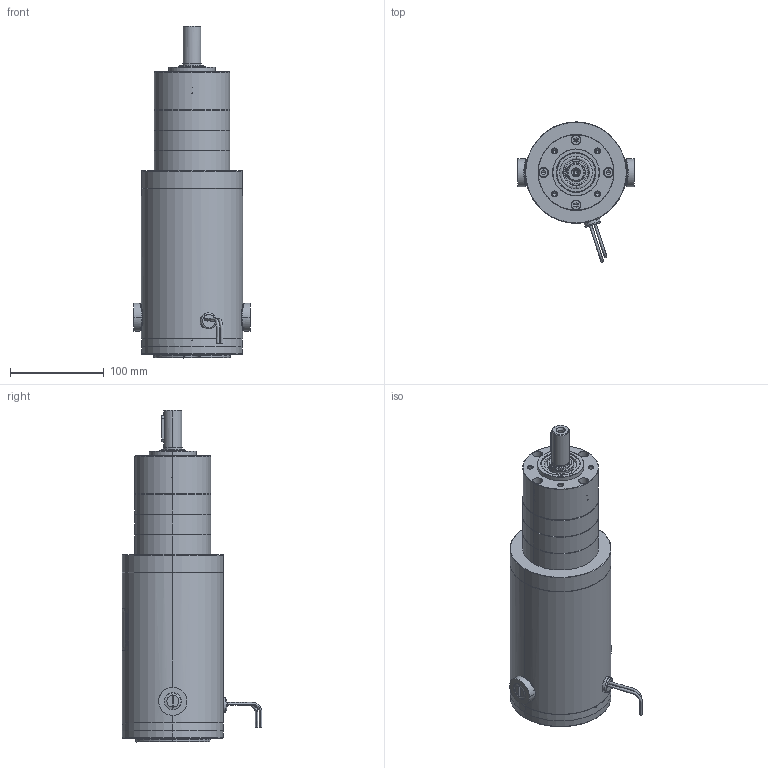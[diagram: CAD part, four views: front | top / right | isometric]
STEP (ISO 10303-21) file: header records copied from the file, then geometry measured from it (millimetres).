
FILE_DESCRIPTION (( 'STEP AP214' ), '1' );
FILE_NAME ('PM10816-PL8100i_3S.STEP', '2013-05-02T12:17:52', ( '' ), ( '' ), 'SwSTEP 2.0', 'SolidWorks 2013', '' );
FILE_SCHEMA (( 'AUTOMOTIVE_DESIGN' ));
Length unit declared in the file: inch
Products named in the file (1): PM10816-PL8100i_3S
Bounding box: 124.21 x 149.45 x 354.58 mm (x, y, z)
Surface area: 351373.7 mm2 (no closed solid volume)
Topology: 0 solids, 55 shells, 2695 faces, 6968 edges, 4484 vertices
Faces by surface type: cylinder 899, plane 884, cone 407, bspline 338, torus 143, sphere 24
Entity records: 140644 total; most frequent: CARTESIAN_POINT 40635, ORIENTED_EDGE 13776, DIRECTION 13206, EDGE_CURVE 6898, AXIS2_PLACEMENT_3D 5266, VERTEX_POINT 4468, EDGE_LOOP 2974, CIRCLE 2908
